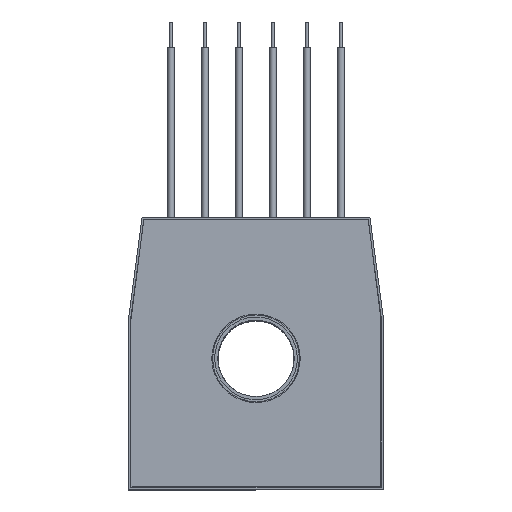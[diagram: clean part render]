
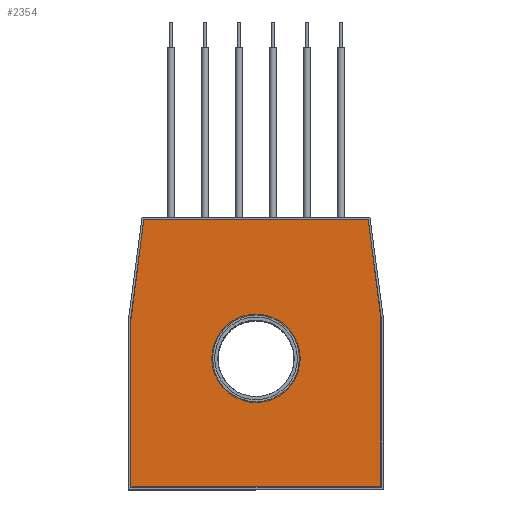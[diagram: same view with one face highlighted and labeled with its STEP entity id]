
A CAD part, top view. The second image highlights one B-rep face of the part: STEP entity #2354.
In plain terms, the highlighted planar face has unit normal (0, 0, 1).
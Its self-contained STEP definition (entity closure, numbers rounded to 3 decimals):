
#2354=ADVANCED_FACE('',(#3818,#3820),#3822,.T.);
#3818=FACE_BOUND('',#3819,.T.);
#3819=EDGE_LOOP('',(#4668,#4669,#4670,#4671,#4672,#4673));
#3820=FACE_BOUND('',#3821,.T.);
#3821=EDGE_LOOP('',(#4674));
#3822=PLANE('',#3823);
#3823=AXIS2_PLACEMENT_3D('',#3824,#3825,#3826);
#3824=CARTESIAN_POINT('',(0.,0.,5.));
#3825=DIRECTION('',(0.,0.,1.));
#3826=DIRECTION('',(1.,0.,0.));
#4668=ORIENTED_EDGE('',*,*,#5087,.T.);
#4669=ORIENTED_EDGE('',*,*,#5088,.T.);
#4670=ORIENTED_EDGE('',*,*,#5089,.T.);
#4671=ORIENTED_EDGE('',*,*,#5090,.T.);
#4672=ORIENTED_EDGE('',*,*,#5091,.T.);
#4673=ORIENTED_EDGE('',*,*,#5092,.T.);
#4674=ORIENTED_EDGE('',*,*,#5093,.T.);
#5087=EDGE_CURVE('',#5758,#5759,#5760,.T.);
#5088=EDGE_CURVE('',#5759,#5761,#5762,.T.);
#5089=EDGE_CURVE('',#5761,#5763,#5764,.T.);
#5090=EDGE_CURVE('',#5763,#5765,#5766,.T.);
#5091=EDGE_CURVE('',#5765,#5767,#5768,.T.);
#5092=EDGE_CURVE('',#5767,#5758,#5769,.T.);
#5093=EDGE_CURVE('',#5770,#5770,#5771,.F.);
#5758=VERTEX_POINT('',#7307);
#5759=VERTEX_POINT('',#7308);
#5760=LINE('',#7309,#7310);
#5761=VERTEX_POINT('',#7312);
#5762=LINE('',#7313,#7314);
#5763=VERTEX_POINT('',#7316);
#5764=LINE('',#7317,#7318);
#5765=VERTEX_POINT('',#7320);
#5766=LINE('',#7321,#7322);
#5767=VERTEX_POINT('',#7324);
#5768=LINE('',#7325,#7326);
#5769=LINE('',#7328,#7329);
#5770=VERTEX_POINT('',#7331);
#5771=CIRCLE('',#7332,25.5);
#7307=CARTESIAN_POINT('',(-73.5,19.815,5.));
#7308=CARTESIAN_POINT('',(-73.5,-78.5,5.));
#7309=CARTESIAN_POINT('',(-73.5,19.815,5.));
#7310=VECTOR('',#7311,1.);
#7311=DIRECTION('',(0.,-1.,0.));
#7312=CARTESIAN_POINT('',(73.5,-78.5,5.));
#7313=CARTESIAN_POINT('',(-73.5,-78.5,5.));
#7314=VECTOR('',#7315,1.);
#7315=DIRECTION('',(1.,0.,0.));
#7316=CARTESIAN_POINT('',(73.5,19.815,5.));
#7317=CARTESIAN_POINT('',(73.5,-78.5,5.));
#7318=VECTOR('',#7319,1.);
#7319=DIRECTION('',(0.,1.,0.));
#7320=CARTESIAN_POINT('',(66.,78.5,5.));
#7321=CARTESIAN_POINT('',(73.5,19.815,5.));
#7322=VECTOR('',#7323,1.);
#7323=DIRECTION('',(-0.127,0.992,0.));
#7324=CARTESIAN_POINT('',(-66.,78.5,5.));
#7325=CARTESIAN_POINT('',(66.,78.5,5.));
#7326=VECTOR('',#7327,1.);
#7327=DIRECTION('',(-1.,0.,0.));
#7328=CARTESIAN_POINT('',(-66.,78.5,5.));
#7329=VECTOR('',#7330,1.);
#7330=DIRECTION('',(-0.127,-0.992,0.));
#7331=CARTESIAN_POINT('',(25.5,-3.,5.));
#7332=AXIS2_PLACEMENT_3D('',#7333,#7334,#7335);
#7333=CARTESIAN_POINT('',(0.,-3.,5.));
#7334=DIRECTION('',(0.,0.,1.));
#7335=DIRECTION('',(1.,0.,0.));
